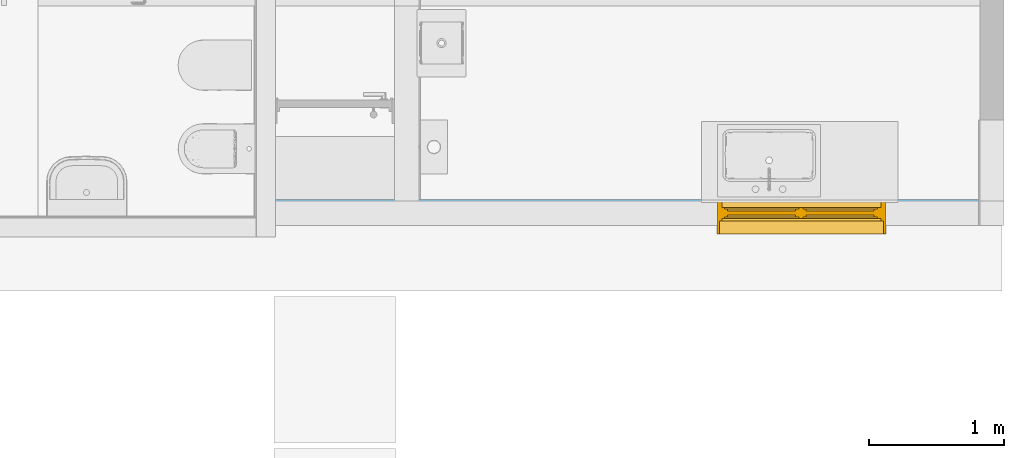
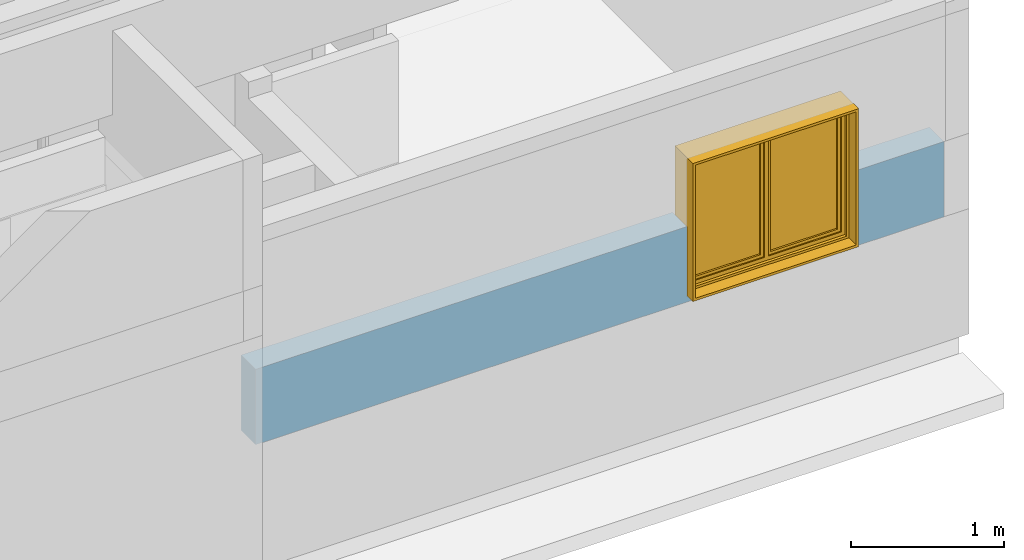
# One storey, part 6 of 10: 1 window, 1 opening, plus 1 element that does not belong to this part.
"""IFC2X3 building model written with IfcOpenShell, lengths in metres."""

from ifc_helpers import new_model, entity, si_unit, converted_unit, derived_unit, direction, frame, frame_2d, origin, place, context, subcontext, project, spatial, rectangle, extrude, faceted_brep, source, transform, mapped, material, material_list, layer, layer_set, layer_usage, type_object, type_shapes, element, fill, save


model = new_model("IFC2X3")

# Units and contexts
model_context = context("Model", 3, precision=1e-05, world=origin(), true_north=direction((6.12303176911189e-17, 1.0)))
body_context = subcontext(model_context, "Body", "Model", "MODEL_VIEW")
ifc_project = project(units=[si_unit("LENGTHUNIT", "METRE"), si_unit("AREAUNIT", "SQUARE_METRE"), si_unit("VOLUMEUNIT", "CUBIC_METRE"), converted_unit("PLANEANGLEUNIT", "DEGREE", entity("IfcRatioMeasure", 0.0174532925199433), si_unit("PLANEANGLEUNIT", "RADIAN"), dimensions=[0, 0, 0, 0, 0, 0, 0]), si_unit("MASSUNIT", "GRAM", prefix="KILO"), derived_unit("MASSDENSITYUNIT", [(si_unit("MASSUNIT", "GRAM", prefix="KILO"), 1), (si_unit("LENGTHUNIT", "METRE"), -3)]), si_unit("TIMEUNIT", "SECOND"), si_unit("FREQUENCYUNIT", "HERTZ"), si_unit("THERMODYNAMICTEMPERATUREUNIT", "DEGREE_CELSIUS"), derived_unit("THERMALTRANSMITTANCEUNIT", [(si_unit("MASSUNIT", "GRAM", prefix="KILO"), 1), (si_unit("THERMODYNAMICTEMPERATUREUNIT", "KELVIN"), -1), (si_unit("TIMEUNIT", "SECOND"), -3)]), derived_unit("VOLUMETRICFLOWRATEUNIT", [(si_unit("LENGTHUNIT", "METRE"), 3), (si_unit("TIMEUNIT", "SECOND"), -1)]), si_unit("ELECTRICCURRENTUNIT", "AMPERE"), si_unit("ELECTRICVOLTAGEUNIT", "VOLT"), si_unit("POWERUNIT", "WATT"), si_unit("FORCEUNIT", "NEWTON", prefix="KILO"), si_unit("ILLUMINANCEUNIT", "LUX"), si_unit("LUMINOUSFLUXUNIT", "LUMEN"), si_unit("LUMINOUSINTENSITYUNIT", "CANDELA"), derived_unit("USERDEFINED", [(si_unit("MASSUNIT", "GRAM", prefix="KILO"), -1), (si_unit("LENGTHUNIT", "METRE"), -2), (si_unit("TIMEUNIT", "SECOND"), 3), (si_unit("LUMINOUSFLUXUNIT", "LUMEN"), 1)]), derived_unit("LINEARVELOCITYUNIT", [(si_unit("LENGTHUNIT", "METRE"), 1), (si_unit("TIMEUNIT", "SECOND"), -1)]), si_unit("PRESSUREUNIT", "PASCAL"), derived_unit("USERDEFINED", [(si_unit("LENGTHUNIT", "METRE"), -2), (si_unit("MASSUNIT", "GRAM", prefix="KILO"), 1), (si_unit("TIMEUNIT", "SECOND"), -2)])], contexts=[model_context])

# Site, building, storey
site_placement = place(None, origin())
site = spatial("IfcSite", under=ifc_project, at=site_placement, Name="Surface", CompositionType="ELEMENT")
building_placement = place(site_placement, origin())
building = spatial("IfcBuilding", under=site, at=building_placement, CompositionType="ELEMENT")
storey_placement = place(building_placement, origin())
storey = spatial("IfcBuildingStorey", under=building, at=storey_placement, Name="Nivel 0.0", CompositionType="ELEMENT", Elevation=0.0)

# Wall, opening, window
ifc_material_1 = material(Name="EIFS")
ifc_layer_1 = layer(ifc_material_1, 0.05)
ifc_material_2 = material(Name="Aislación hidrófuga")
ifc_layer_2 = layer(ifc_material_2, 0.005)
ifc_material_3 = material(Name="OSB")
ifc_layer_3 = layer(ifc_material_3, 0.011)
ifc_material_4 = material(Name="Bastidor metálico")
ifc_layer_4 = layer(ifc_material_4, 0.1)
ifc_material_5 = material(Name="Placa roca de Yeso 12,5mm")
ifc_layer_5 = layer(ifc_material_5, 0.012)
ifc_material_6 = material(Name="Revestimiento Cerámico muro")
ifc_layer_6 = layer(ifc_material_6, 0.012)
ifc_layer_set = layer_set([ifc_layer_1, ifc_layer_2, ifc_layer_3, ifc_layer_4, ifc_layer_5, ifc_layer_6], Name="Basic Wall:Pe-SF-003")
ifc_layer_usage = layer_usage(ifc_layer_set, "AXIS2", "POSITIVE", -0.095)
wall_type = type_object("IfcWallType", Name="Basic Wall:Pe-SF-003", PredefinedType="STANDARD", material=ifc_layer_set)
wall_placement = place(storey_placement, frame((-4.44131196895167, -3.33554870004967, 1.0)))
wall = element("IfcWallStandardCase", 1, at=wall_placement, inside=storey, type_object=wall_type, material=ifc_layer_usage, Name="Basic Wall:Pe-SF-003", ObjectType="Basic Wall:Pe-SF-003", context=body_context, shape_type="SweptSolid", body=[
    extrude(rectangle(XDim=5.19072649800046, YDim=0.19, at=frame_2d((2.59536324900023, 6.24500451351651e-17), x_axis=(-1.0, 0.0))), origin(), (0.0, 0.0, 1.0), 0.6),
])
opening_placement = place(wall_placement, frame((4.50376031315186, 0.0949999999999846, 0.0400000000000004)))
opening = element("IfcOpeningElement", 2, at=opening_placement, cuts=wall, Name="Ventana1,20x1.20:V1:1", ObjectType="Opening", context=body_context, shape_type="SweptSolid", body=[
    extrude(rectangle(XDim=1.1, YDim=1.25, at=frame_2d((0.55, 0.624999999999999), x_axis=(1.0, 0.0))), frame((0.0, 0.0, 0.0), z_axis=(0.0, -1.0, 0.0), x_axis=(0.0, 0.0, 1.0)), (0.0, 0.0, 1.0), 0.19),
])
ifc_material_7 = material(Name="Chapa plegada")
ifc_material_8 = material(Name="NBS_Concept")
ifc_material_9 = material(Name="NBS_Glass_Double")
ifc_material_list_1 = material_list([ifc_material_7, ifc_material_8, ifc_material_9])
ifc_material_list_2 = material_list([ifc_material_7, ifc_material_8, ifc_material_9])
window_style = type_object("IfcWindowStyle", Name="V1", ConstructionType="OTHER_CONSTRUCTION", OperationType="DOUBLE_PANEL_VERTICAL", ParameterTakesPrecedence=False, Sizeable=False, material=ifc_material_list_2)
shared_shape = source(origin(), body_context, "Body", "Brep", [
    faceted_brep([(0.0314638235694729, 0.165000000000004, 1.062), (0.0314638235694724, 0.025000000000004, 1.062), (0.0314638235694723, 0.025000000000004, 0.0380000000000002), (0.0314638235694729, 0.165000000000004, 0.0380000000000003), (-0.00653617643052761, 0.0250000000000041, 0.0), (1.24346382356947, 0.0250000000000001, 0.0), (1.24346382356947, 0.0250000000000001, 1.1), (-0.00653617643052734, 0.0250000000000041, 1.1), (1.20546382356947, 0.0250000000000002, 1.062), (1.20546382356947, 0.0250000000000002, 0.0380000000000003), (1.20546382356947, 0.165, 0.0380000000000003), (1.20546382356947, 0.165, 1.062), (0.0124638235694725, 0.165000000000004, 1.081), (1.22446382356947, 0.165, 1.081), (1.22446382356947, 0.165, 0.0190000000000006), (0.0124638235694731, 0.165000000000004, 0.0190000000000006), (0.0124638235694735, 0.260000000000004, 1.081), (0.0124638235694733, 0.260000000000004, 0.0190000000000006), (1.22446382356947, 0.26, 0.0190000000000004), (1.22446382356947, 0.26, 1.081), (-0.00653617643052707, 0.260000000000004, 1.1), (1.24346382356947, 0.26, 1.1), (1.24346382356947, 0.26, 0.0), (-0.00653617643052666, 0.260000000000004, 0.0)], [[[0, 1, 2, 3]], [[4, 5, 6, 7], [1, 8, 9, 2]], [[3, 2, 9, 10]], [[3, 10, 11, 0], [12, 13, 14, 15]], [[16, 12, 15, 17]], [[17, 15, 14, 18]], [[17, 18, 19, 16], [20, 21, 22, 23]], [[7, 20, 23, 4]], [[4, 23, 22, 5]], [[10, 9, 8, 11]], [[18, 14, 13, 19]], [[5, 22, 21, 6]], [[11, 8, 1, 0]], [[19, 13, 12, 16]], [[6, 21, 20, 7]]], outer=[[True], [True, False], [True], [False, True], [True], [True], [False, True], [True], [True], [True], [True], [True], [True], [True], [True]]),
    faceted_brep([(0.638416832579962, 0.145000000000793, 0.0699999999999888), (0.638416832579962, 0.0650000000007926, 0.0699999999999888), (0.608416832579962, 0.0650000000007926, 0.0699999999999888), (0.608416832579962, 0.145000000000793, 0.0699999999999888), (0.638416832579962, 0.145000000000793, 1.02499999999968), (0.638416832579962, 0.0650000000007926, 1.02499999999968), (0.608416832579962, 0.0650000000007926, 1.02499999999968), (0.608416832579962, 0.145000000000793, 1.02499999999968)], [[[0, 1, 2, 3]], [[4, 5, 1, 0]], [[5, 6, 2, 1]], [[6, 7, 3, 2]], [[7, 4, 0, 3]], [[4, 7, 6, 5]]]),
    faceted_brep([(0.646416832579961, 0.121000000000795, 0.0779999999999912), (1.18041683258, 0.121000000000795, 0.0779999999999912), (1.18041683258, 0.0890000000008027, 0.0779999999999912), (0.646416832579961, 0.0890000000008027, 0.0779999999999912), (0.646416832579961, 0.121000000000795, 1.01699999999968), (0.646416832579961, 0.0890000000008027, 1.01699999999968), (1.18041683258, 0.0890000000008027, 1.01699999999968), (1.18041683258, 0.121000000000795, 1.01699999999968)], [[[0, 1, 2, 3]], [[4, 0, 3, 5]], [[5, 3, 2, 6]], [[6, 2, 1, 7]], [[7, 1, 0, 4]], [[4, 5, 6, 7]]]),
    faceted_brep([(0.638416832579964, 0.135000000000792, 1.02499999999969), (0.638416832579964, 0.135000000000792, 0.069999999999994), (0.638416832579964, 0.0750000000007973, 0.069999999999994), (0.638416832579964, 0.0750000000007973, 1.02499999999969), (0.661416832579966, 0.0750000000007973, 1.00199999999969), (1.16541683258, 0.0750000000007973, 1.00199999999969), (1.16541683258, 0.0750000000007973, 0.0929999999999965), (0.661416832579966, 0.0750000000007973, 0.0929999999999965), (1.18841683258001, 0.0750000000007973, 1.02499999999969), (1.18841683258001, 0.0750000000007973, 0.069999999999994), (1.18841683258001, 0.135000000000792, 0.0699999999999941), (1.18841683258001, 0.135000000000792, 1.02499999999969), (1.16541683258, 0.135000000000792, 1.00199999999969), (0.661416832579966, 0.135000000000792, 1.00199999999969), (0.661416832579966, 0.135000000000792, 0.0929999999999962), (1.16541683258, 0.135000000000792, 0.0929999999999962), (0.661416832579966, 0.121000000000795, 1.00199999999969), (0.661416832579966, 0.121000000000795, 0.0929999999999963), (1.16541683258, 0.121000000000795, 0.0929999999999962), (1.16541683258, 0.121000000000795, 1.00199999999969), (1.18041683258, 0.121000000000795, 1.01699999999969), (0.646416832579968, 0.121000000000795, 1.01699999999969), (0.646416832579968, 0.121000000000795, 0.077999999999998), (1.18041683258, 0.121000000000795, 0.077999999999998), (0.646416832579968, 0.0890000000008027, 1.01699999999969), (0.646416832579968, 0.0890000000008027, 0.0779999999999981), (1.18041683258, 0.0890000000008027, 0.077999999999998), (1.18041683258, 0.0890000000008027, 1.01699999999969), (1.16541683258, 0.0890000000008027, 1.00199999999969), (0.661416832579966, 0.0890000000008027, 1.00199999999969), (0.661416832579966, 0.0890000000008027, 0.0929999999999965), (1.16541683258, 0.0890000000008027, 0.0929999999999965)], [[[0, 1, 2, 3]], [[4, 5, 6, 7], [8, 3, 2, 9]], [[1, 10, 9, 2]], [[0, 11, 10, 1], [12, 13, 14, 15]], [[16, 17, 14, 13]], [[17, 18, 15, 14]], [[16, 19, 18, 17], [20, 21, 22, 23]], [[24, 25, 22, 21]], [[25, 26, 23, 22]], [[24, 27, 26, 25], [28, 29, 30, 31]], [[4, 7, 30, 29]], [[7, 6, 31, 30]], [[10, 11, 8, 9]], [[18, 19, 12, 15]], [[26, 27, 20, 23]], [[6, 5, 28, 31]], [[11, 0, 3, 8]], [[19, 16, 13, 12]], [[27, 24, 21, 20]], [[5, 4, 29, 28]]], outer=[[True], [False, True], [True], [True, False], [True], [True], [False, True], [True], [True], [True, False], [True], [True], [True], [True], [True], [True], [True], [True], [True], [True]]),
    faceted_brep([(0.600416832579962, 0.121000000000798, 0.0779999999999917), (0.600416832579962, 0.0890000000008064, 0.0779999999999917), (0.0664168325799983, 0.0890000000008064, 0.0779999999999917), (0.0664168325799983, 0.121000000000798, 0.0779999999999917), (0.600416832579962, 0.121000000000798, 1.01699999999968), (0.600416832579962, 0.0890000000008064, 1.01699999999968), (0.0664168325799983, 0.0890000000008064, 1.01699999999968), (0.0664168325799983, 0.121000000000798, 1.01699999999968)], [[[0, 1, 2, 3]], [[4, 5, 1, 0]], [[5, 6, 2, 1]], [[6, 7, 3, 2]], [[7, 4, 0, 3]], [[4, 7, 6, 5]]]),
    faceted_brep([(0.608416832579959, 0.135000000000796, 1.02499999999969), (0.608416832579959, 0.075000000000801, 1.02499999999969), (0.608416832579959, 0.075000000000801, 0.0699999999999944), (0.60841683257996, 0.135000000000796, 0.0699999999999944), (0.585416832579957, 0.075000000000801, 1.00199999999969), (0.585416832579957, 0.075000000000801, 0.0929999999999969), (0.0814168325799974, 0.075000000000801, 0.0929999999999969), (0.0814168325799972, 0.075000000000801, 1.00199999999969), (0.058416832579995, 0.075000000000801, 1.02499999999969), (0.0584168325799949, 0.075000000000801, 0.0699999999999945), (0.058416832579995, 0.135000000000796, 0.0699999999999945), (0.0584168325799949, 0.135000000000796, 1.02499999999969), (0.081416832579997, 0.135000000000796, 1.00199999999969), (0.0814168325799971, 0.135000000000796, 0.0929999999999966), (0.585416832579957, 0.135000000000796, 0.0929999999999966), (0.585416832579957, 0.135000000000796, 1.00199999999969), (0.585416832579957, 0.121000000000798, 1.00199999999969), (0.585416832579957, 0.121000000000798, 0.0929999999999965), (0.0814168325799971, 0.121000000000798, 0.0929999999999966), (0.081416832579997, 0.121000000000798, 1.00199999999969), (0.0664168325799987, 0.121000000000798, 1.01699999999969), (0.0664168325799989, 0.121000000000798, 0.0779999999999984), (0.600416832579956, 0.121000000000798, 0.0779999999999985), (0.600416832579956, 0.121000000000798, 1.01699999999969), (0.600416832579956, 0.0890000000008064, 1.01699999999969), (0.600416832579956, 0.0890000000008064, 0.0779999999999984), (0.0664168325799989, 0.0890000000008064, 0.0779999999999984), (0.0664168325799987, 0.0890000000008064, 1.01699999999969), (0.0814168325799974, 0.0890000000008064, 1.00199999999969), (0.0814168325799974, 0.0890000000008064, 0.0929999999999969), (0.585416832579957, 0.0890000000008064, 0.0929999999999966), (0.585416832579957, 0.0890000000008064, 1.00199999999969)], [[[0, 1, 2, 3]], [[4, 5, 6, 7], [8, 9, 2, 1]], [[3, 2, 9, 10]], [[0, 3, 10, 11], [12, 13, 14, 15]], [[16, 15, 14, 17]], [[17, 14, 13, 18]], [[16, 17, 18, 19], [20, 21, 22, 23]], [[24, 23, 22, 25]], [[25, 22, 21, 26]], [[24, 25, 26, 27], [28, 29, 30, 31]], [[4, 31, 30, 5]], [[5, 30, 29, 6]], [[10, 9, 8, 11]], [[18, 13, 12, 19]], [[26, 21, 20, 27]], [[6, 29, 28, 7]], [[11, 8, 1, 0]], [[19, 12, 15, 16]], [[27, 20, 23, 24]], [[7, 28, 31, 4]]], outer=[[True], [False, True], [True], [True, False], [True], [True], [False, True], [True], [True], [True, False], [True], [True], [True], [True], [True], [True], [True], [True], [True], [True]]),
    faceted_brep([(1.18841683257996, 0.065000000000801, 1.02499999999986), (1.18841683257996, 0.145000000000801, 1.02499999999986), (1.18841683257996, 0.145000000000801, 0.0700000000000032), (1.18841683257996, 0.065000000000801, 0.0700000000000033), (1.21841683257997, 0.145000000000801, 1.05499999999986), (1.21841683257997, 0.145000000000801, 0.0400000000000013), (0.0284168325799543, 0.145000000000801, 0.0400000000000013), (0.0284168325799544, 0.145000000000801, 1.05499999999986), (0.0584168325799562, 0.145000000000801, 1.02499999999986), (0.0584168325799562, 0.145000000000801, 0.0700000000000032), (0.0584168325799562, 0.065000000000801, 0.0700000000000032), (0.0584168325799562, 0.065000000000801, 1.02499999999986), (0.0284168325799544, 0.065000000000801, 1.05499999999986), (0.0284168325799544, 0.065000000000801, 0.0400000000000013), (1.21841683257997, 0.065000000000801, 0.0400000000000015), (1.21841683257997, 0.065000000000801, 1.05499999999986)], [[[0, 1, 2, 3]], [[4, 5, 6, 7], [8, 9, 2, 1]], [[3, 2, 9, 10]], [[0, 3, 10, 11], [12, 13, 14, 15]], [[4, 15, 14, 5]], [[5, 14, 13, 6]], [[10, 9, 8, 11]], [[6, 13, 12, 7]], [[11, 8, 1, 0]], [[7, 12, 15, 4]]], outer=[[True], [True, False], [True], [False, True], [True], [True], [True], [True], [True], [True]]),
])
type_shapes(window_style, [shared_shape])
window_placement = place(opening_placement, frame((0.0, 0.00500000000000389, 0.0), z_axis=(0.0, 0.0, 1.0), x_axis=(-1.0, 0.0, 0.0)))
window = element("IfcWindow", 3, at=window_placement, inside=storey, type_object=window_style, material=ifc_material_list_1, Name="Ventana1,20x1.20:V1", ObjectType="Ventana1,20x1.20:V1", OverallHeight=1.1, OverallWidth=1.25, context=body_context, shape_type="MappedRepresentation", body=[
    mapped(shared_shape, transform((0.0, 0.0, 0.0), scale=1.0)),
])
fill(opening, window)

save(model, "model.ifc")
